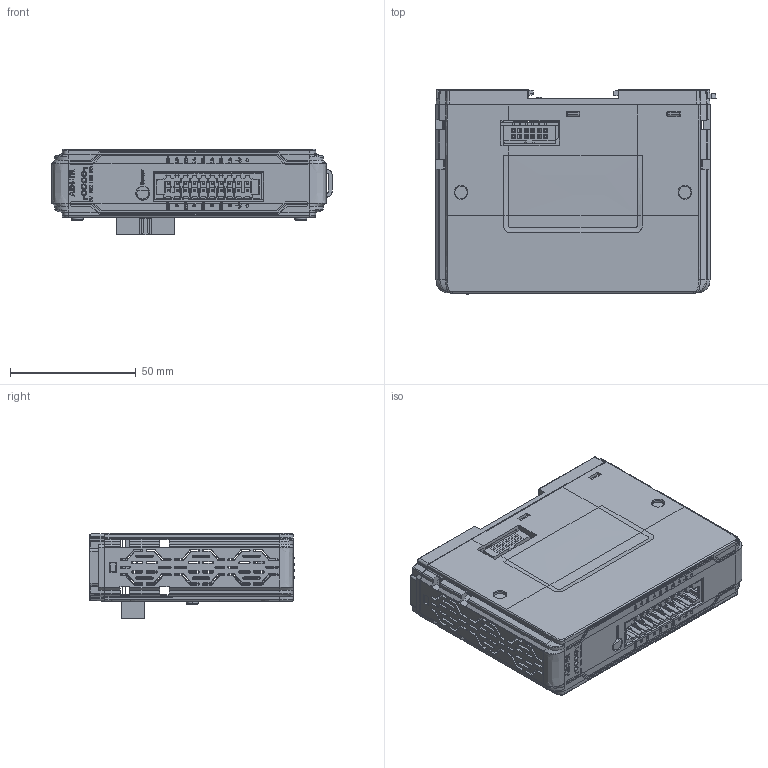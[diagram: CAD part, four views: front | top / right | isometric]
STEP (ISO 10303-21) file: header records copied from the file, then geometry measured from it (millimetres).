
FILE_DESCRIPTION (( 'STEP AP214' ), '1' );
FILE_NAME ('iR-AI04-TR.STEP', '2020-09-09T21:42:40', ( '' ), ( '' ), 'SwSTEP 2.0', 'SolidWorks 2019', '' );
FILE_SCHEMA (( 'AUTOMOTIVE_DESIGN' ));
Length unit declared in the file: millimetre
Products named in the file (1): iR-AI04-TR
Bounding box: 111.4 x 81.42 x 33.96 mm (x, y, z)
Surface area: 69860.8 mm2 (no closed solid volume)
Topology: 0 solids, 63 shells, 2212 faces, 8981 edges, 6727 vertices
Faces by surface type: plane 1464, cone 392, cylinder 239, bspline 83, torus 34
Entity records: 124092 total; most frequent: CARTESIAN_POINT 30525, ORIENTED_EDGE 14284, DIRECTION 13191, EDGE_CURVE 8973, VERTEX_POINT 6727, LINE 6383, VECTOR 6383, AXIS2_PLACEMENT_3D 3404
